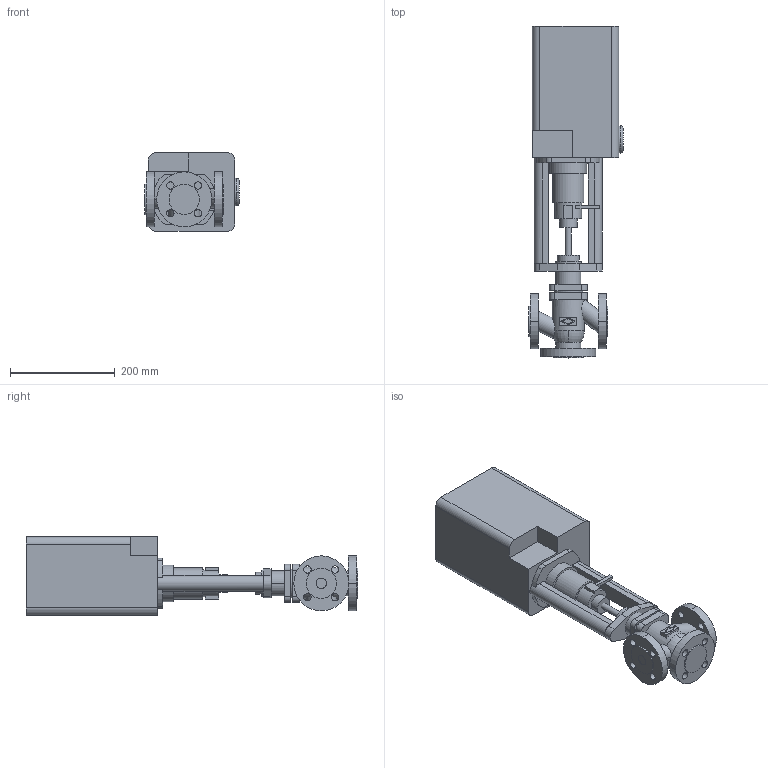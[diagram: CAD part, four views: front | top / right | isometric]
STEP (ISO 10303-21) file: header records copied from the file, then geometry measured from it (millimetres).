
FILE_DESCRIPTION(('OneSpaceDesigner STEP Export'),'2;1');
FILE_NAME('c000002385.stp','2006-09-19T11:54:49',(''),(''),'OneSpace Designer STEP processor for AP214 (Solid Model)','OneSpace Designer 13.20A 18-Aug-2005 (C) CoCreate Software GmbH','');
FILE_SCHEMA(('AUTOMOTIVE_DESIGN { 1 0 10303 214 1 1 1 1 }'));
Length unit declared in the file: millimetre
Products named in the file (2): 1; 2
Bounding box: 179.6 x 634 x 150 mm (x, y, z)
Volume: 7795727.2 mm3; surface area: 405535.9 mm2
Topology: 2 solids, 2 shells, 192 faces, 490 edges, 327 vertices
Faces by surface type: cylinder 98, plane 90, torus 4
Entity records: 5782 total; most frequent: CARTESIAN_POINT 1320, ORIENTED_EDGE 980, DIRECTION 837, EDGE_CURVE 490, VERTEX_POINT 327, AXIS2_PLACEMENT_3D 291, VECTOR 255, LINE 255
